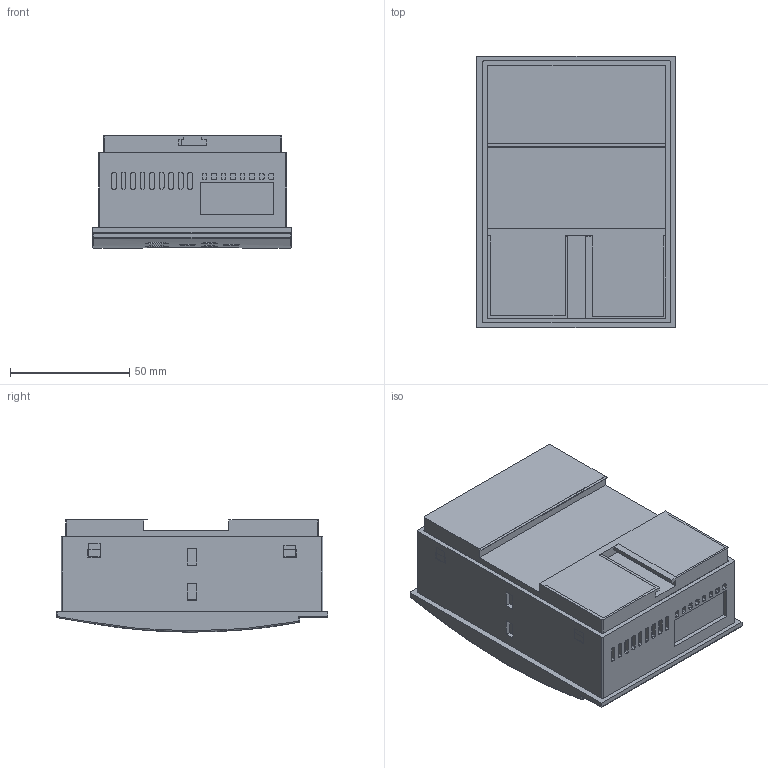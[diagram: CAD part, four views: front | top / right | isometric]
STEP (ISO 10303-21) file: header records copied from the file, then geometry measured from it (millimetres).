
FILE_DESCRIPTION (( 'STEP AP214' ), '1' );
FILE_NAME ('GSR_xxx_3d.STEP', '2020-09-02T08:06:43', ( 'meteceyhan@outlook.com' ), ( 'HP' ), 'SwSTEP 2.0', 'SolidWorks 2016', '' );
FILE_SCHEMA (( 'AUTOMOTIVE_DESIGN' ));
Length unit declared in the file: millimetre
Products named in the file (1): GSR_xxx_3d
Bounding box: 83.5 x 114 x 47.11 mm (x, y, z)
Volume: 346685.8 mm3; surface area: 91592.6 mm2
Topology: 3 solids, 3 shells, 571 faces, 1634 edges, 1080 vertices
Faces by surface type: plane 338, cylinder 203, bspline 24, sphere 4, torus 2
Entity records: 27887 total; most frequent: CARTESIAN_POINT 6270, ORIENTED_EDGE 3260, DIRECTION 3058, EDGE_CURVE 1630, VECTOR 1190, LINE 1190, VERTEX_POINT 1080, AXIS2_PLACEMENT_3D 934
